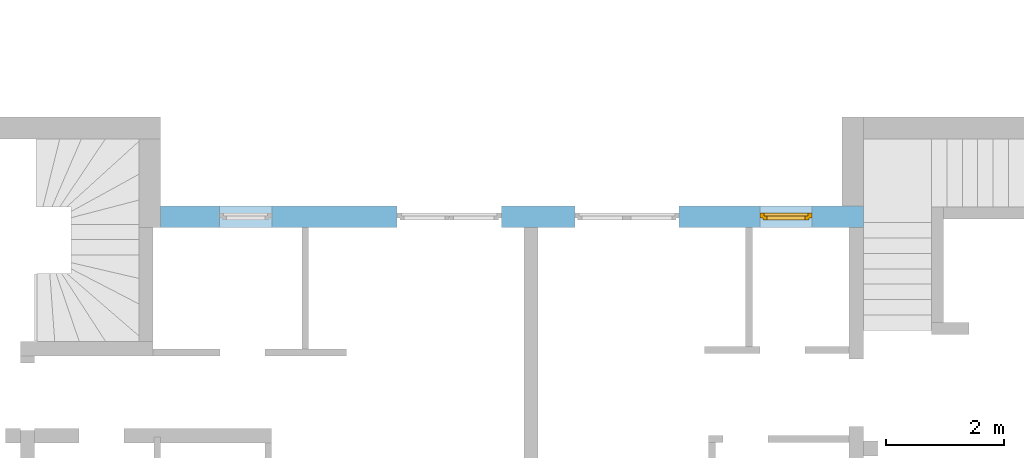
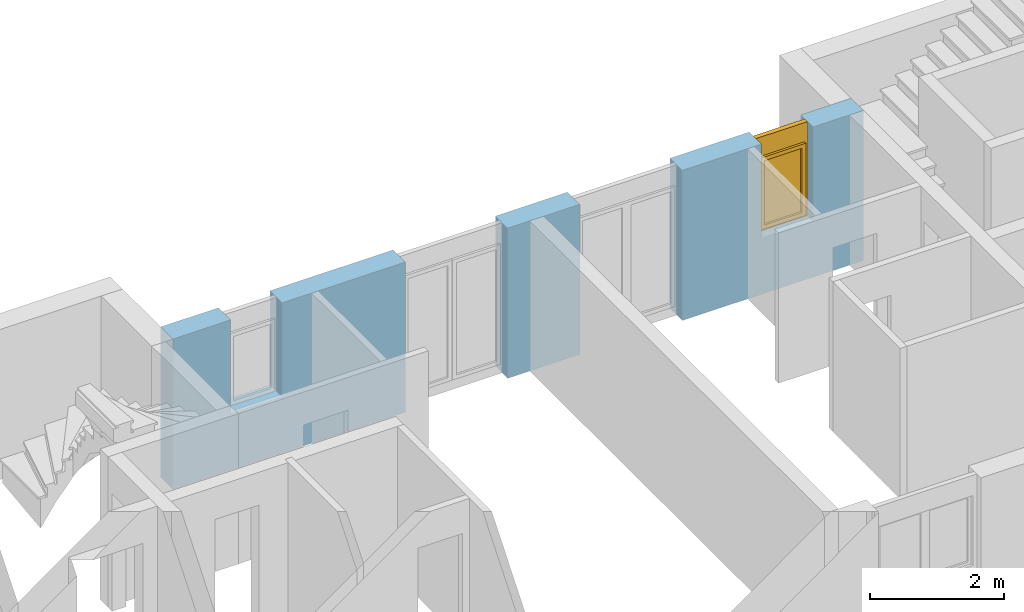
# One storey, part 35 of 41: 1 window, 4 openings, plus 1 element that does not belong to this part.
"""IFC2X3 building model written with IfcOpenShell, lengths in millimetres."""

from ifc_helpers import new_model, entity, si_unit, converted_unit, frame, frame_2d, origin, origin_with_axes, place, context, subcontext, project, spatial, rectangle, extrude, faceted_brep, material, layer, layer_set, layer_usage, type_object, element, fill, save


model = new_model("IFC2X3")

# Units and contexts
model_context = context("Model", 3, precision=1e-05, world=origin())
body_context = subcontext(model_context, "Body", "Model", "MODEL_VIEW")
ifc_project = project(units=[si_unit("LENGTHUNIT", "METRE", prefix="MILLI"), converted_unit("PLANEANGLEUNIT", "DEGREE", entity("IfcPlaneAngleMeasure", 0.0174532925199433), si_unit("PLANEANGLEUNIT", "RADIAN"), dimensions=[0, 0, 0, 0, 0, 0, 0]), si_unit("AREAUNIT", "SQUARE_METRE"), si_unit("VOLUMEUNIT", "CUBIC_METRE")], contexts=[model_context])

# Building, storey
building_placement = place(None, origin())
building = spatial("IfcBuilding", under=ifc_project, at=building_placement, Name="Gebäude", CompositionType="ELEMENT")
storey_placement = place(building_placement, frame((0.0, 0.0, -200.0), z_axis=(0.0, 0.0, 1.0), x_axis=(1.0, 0.0, 0.0)))
storey = spatial("IfcBuildingStorey", under=building, at=storey_placement, Name="EG.- Grundriss", CompositionType="ELEMENT", Elevation=-200.0)

# Wall, openings, window
ifc_material_1 = material(Name="Poroton")
ifc_layer = layer(ifc_material_1, 365.0000000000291)
ifc_layer_set = layer_set([ifc_layer])
ifc_layer_usage = layer_usage(ifc_layer_set, "AXIS2", "POSITIVE", 0.0)
wall_placement = place(storey_placement, frame((176237.7928067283, 134774.8877324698, 0.0), z_axis=(0.0, 0.0, 1.0), x_axis=(-1.0, 0.0, 0.0)))
wall = element("IfcWallStandardCase", 1, at=wall_placement, inside=storey, material=ifc_layer_usage, Name="<Unnamed Element>", context=body_context, shape_type="SweptSolid", body=[
    extrude(rectangle(XDim=11869.99999999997, YDim=365.0000000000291, at=frame_2d((5934.999999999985, 182.5000000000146), x_axis=(1.0, 0.0))), origin_with_axes(), (0.0, 0.0, 1.0), 2730.0),
])
opening_1_placement = place(wall_placement, frame((9990.00000000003, 0.0, 1020.0), z_axis=(0.0, 1.0, 0.0), x_axis=(0.0, 0.0, 1.0)))
element("IfcOpeningElement", 2, at=opening_1_placement, cuts=wall, Name="Fensteröffnung", ObjectType="Opening", context=body_context, shape_type="SweptSolid", body=[
    extrude(rectangle(XDim=1710.0, YDim=885.0, at=frame_2d((855.0, 442.5), x_axis=(1.0, 0.0))), origin_with_axes(), (0.0, 0.0, 1.0), 365.0000000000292),
])
opening_2_placement = place(wall_placement, frame((6115.000000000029, 0.0, 0.0), z_axis=(0.0, 1.0, 0.0), x_axis=(0.0, 0.0, 1.0)))
element("IfcOpeningElement", 3, at=opening_2_placement, cuts=wall, Name="Fensteröffnung", ObjectType="Opening", context=body_context, shape_type="SweptSolid", body=[
    extrude(rectangle(XDim=2730.0, YDim=1760.0, at=frame_2d((1365.0, 880.0), x_axis=(1.0, 0.0))), origin_with_axes(), (0.0, 0.0, 1.0), 365.0000000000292),
])
opening_3_placement = place(wall_placement, frame((3115.000000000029, 0.0, 0.0), z_axis=(0.0, 1.0, 0.0), x_axis=(0.0, 0.0, 1.0)))
element("IfcOpeningElement", 4, at=opening_3_placement, cuts=wall, Name="Fensteröffnung", ObjectType="Opening", context=body_context, shape_type="SweptSolid", body=[
    extrude(rectangle(XDim=2730.0, YDim=1760.0, at=frame_2d((1365.0, 880.0), x_axis=(1.0, 0.0))), origin_with_axes(), (0.0, 0.0, 1.0), 365.0000000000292),
])
opening_4_placement = place(wall_placement, frame((865.0000000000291, 0.0, 1020.0), z_axis=(0.0, 1.0, 0.0), x_axis=(0.0, 0.0, 1.0)))
opening_4 = element("IfcOpeningElement", 5, at=opening_4_placement, cuts=wall, Name="Fensteröffnung", ObjectType="Opening", context=body_context, shape_type="SweptSolid", body=[
    extrude(rectangle(XDim=1710.0, YDim=885.0, at=frame_2d((855.0, 442.5), x_axis=(1.0, 0.0))), origin_with_axes(), (0.0, 0.0, 1.0), 365.0000000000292),
])
ifc_material_2 = material()
window_style = type_object("IfcWindowStyle", Name="Fenster", ConstructionType="NOTDEFINED", OperationType="USERDEFINED", ParameterTakesPrecedence=False, Sizeable=False)
window_placement = place(opening_4_placement, frame((0.0, 0.0, 0.0), z_axis=(1.0, 0.0, 0.0), x_axis=(0.0, 1.0, 0.0)))
window = element("IfcWindow", 6, at=window_placement, inside=storey, type_object=window_style, material=ifc_material_2, Name="Fenster", OverallHeight=1710.0, OverallWidth=885.0, context=body_context, shape_type="Brep", body=[
    faceted_brep([(9.797174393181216e-15, 200.0000000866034, 1710.0), (9.797174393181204e-15, 200.0000000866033, -2.449293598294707e-15), (69.99999999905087, 200.0000000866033, -2.449293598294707e-15), (69.99999999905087, 200.0000000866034, 1710.0), (0.0, 120.0000000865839, 2.449293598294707e-15), (1.21822944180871e-29, 120.000000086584, 1710.0), (69.99999999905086, 120.000000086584, 1710.0), (69.99999999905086, 120.0000000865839, 2.449293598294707e-15), (9.797174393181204e-15, 200.0000000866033, -2.449293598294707e-15), (9.797174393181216e-15, 200.0000000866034, 1710.0), (1.21822944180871e-29, 120.000000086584, 1710.0), (0.0, 120.0000000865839, 2.449293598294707e-15), (69.99999999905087, 200.0000000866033, -2.449293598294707e-15), (9.797174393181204e-15, 200.0000000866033, -2.449293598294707e-15), (0.0, 120.0000000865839, 2.449293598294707e-15), (69.99999999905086, 120.0000000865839, 2.449293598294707e-15), (69.99999999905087, 200.0000000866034, 1710.0), (69.99999999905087, 200.0000000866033, -2.449293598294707e-15), (69.99999999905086, 120.0000000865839, 2.449293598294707e-15), (69.99999999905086, 120.000000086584, 1710.0), (9.797174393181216e-15, 200.0000000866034, 1710.0), (69.99999999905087, 200.0000000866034, 1710.0), (69.99999999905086, 120.000000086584, 1710.0), (1.21822944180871e-29, 120.000000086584, 1710.0)], [[[0, 1, 2, 3]], [[4, 5, 6, 7]], [[8, 9, 10, 11]], [[12, 13, 14, 15]], [[16, 17, 18, 19]], [[20, 21, 22, 23]]], orient=[[False], [False], [False], [False], [False], [False]]),
    faceted_brep([(815.0000000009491, 200.0000000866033, 1710.0), (815.0000000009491, 200.0000000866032, -2.449293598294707e-15), (884.9999999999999, 200.0000000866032, -2.449293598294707e-15), (884.9999999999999, 200.0000000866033, 1710.0), (815.0000000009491, 120.0000000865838, 2.449293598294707e-15), (815.0000000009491, 120.0000000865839, 1710.0), (884.9999999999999, 120.0000000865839, 1710.0), (884.9999999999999, 120.0000000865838, 2.449293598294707e-15), (815.0000000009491, 200.0000000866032, -2.449293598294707e-15), (815.0000000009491, 200.0000000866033, 1710.0), (815.0000000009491, 120.0000000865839, 1710.0), (815.0000000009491, 120.0000000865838, 2.449293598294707e-15), (884.9999999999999, 200.0000000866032, -2.449293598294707e-15), (815.0000000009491, 200.0000000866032, -2.449293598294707e-15), (815.0000000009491, 120.0000000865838, 2.449293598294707e-15), (884.9999999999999, 120.0000000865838, 2.449293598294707e-15), (884.9999999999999, 200.0000000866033, 1710.0), (884.9999999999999, 200.0000000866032, -2.449293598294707e-15), (884.9999999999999, 120.0000000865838, 2.449293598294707e-15), (884.9999999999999, 120.0000000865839, 1710.0), (815.0000000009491, 200.0000000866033, 1710.0), (884.9999999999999, 200.0000000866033, 1710.0), (884.9999999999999, 120.0000000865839, 1710.0), (815.0000000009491, 120.0000000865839, 1710.0)], [[[0, 1, 2, 3]], [[4, 5, 6, 7]], [[8, 9, 10, 11]], [[12, 13, 14, 15]], [[16, 17, 18, 19]], [[20, 21, 22, 23]]], orient=[[False], [False], [False], [False], [False], [False]]),
    faceted_brep([(69.99999999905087, 200.0000000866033, 70.0), (69.99999999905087, 200.0000000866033, -2.449293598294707e-15), (815.0000000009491, 200.0000000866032, -2.449293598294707e-15), (815.0000000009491, 200.0000000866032, 70.0), (69.99999999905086, 120.0000000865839, 2.449293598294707e-15), (69.99999999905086, 120.0000000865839, 70.0), (815.0000000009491, 120.0000000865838, 70.0), (815.0000000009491, 120.0000000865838, 2.449293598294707e-15), (69.99999999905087, 200.0000000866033, -2.449293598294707e-15), (69.99999999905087, 200.0000000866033, 70.0), (69.99999999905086, 120.0000000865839, 70.0), (69.99999999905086, 120.0000000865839, 2.449293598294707e-15), (815.0000000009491, 200.0000000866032, -2.449293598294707e-15), (69.99999999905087, 200.0000000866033, -2.449293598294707e-15), (69.99999999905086, 120.0000000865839, 2.449293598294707e-15), (815.0000000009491, 120.0000000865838, 2.449293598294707e-15), (815.0000000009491, 200.0000000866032, 70.0), (815.0000000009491, 200.0000000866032, -2.449293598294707e-15), (815.0000000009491, 120.0000000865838, 2.449293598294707e-15), (815.0000000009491, 120.0000000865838, 70.0), (69.99999999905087, 200.0000000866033, 70.0), (815.0000000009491, 200.0000000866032, 70.0), (815.0000000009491, 120.0000000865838, 70.0), (69.99999999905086, 120.0000000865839, 70.0)], [[[0, 1, 2, 3]], [[4, 5, 6, 7]], [[8, 9, 10, 11]], [[12, 13, 14, 15]], [[16, 17, 18, 19]], [[20, 21, 22, 23]]], orient=[[False], [False], [False], [False], [False], [False]]),
    faceted_brep([(69.99999999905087, 200.0000000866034, 1710.0), (69.99999999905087, 200.0000000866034, 1340.0), (815.0000000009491, 200.0000000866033, 1340.0), (815.0000000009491, 200.0000000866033, 1710.0), (69.99999999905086, 120.000000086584, 1340.0), (69.99999999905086, 120.000000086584, 1710.0), (815.0000000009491, 120.0000000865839, 1710.0), (815.0000000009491, 120.0000000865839, 1340.0), (69.99999999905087, 200.0000000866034, 1340.0), (69.99999999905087, 200.0000000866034, 1710.0), (69.99999999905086, 120.000000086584, 1710.0), (69.99999999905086, 120.000000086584, 1340.0), (815.0000000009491, 200.0000000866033, 1340.0), (69.99999999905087, 200.0000000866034, 1340.0), (69.99999999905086, 120.000000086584, 1340.0), (815.0000000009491, 120.0000000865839, 1340.0), (815.0000000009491, 200.0000000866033, 1710.0), (815.0000000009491, 200.0000000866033, 1340.0), (815.0000000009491, 120.0000000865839, 1340.0), (815.0000000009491, 120.0000000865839, 1710.0), (69.99999999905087, 200.0000000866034, 1710.0), (815.0000000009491, 200.0000000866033, 1710.0), (815.0000000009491, 120.0000000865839, 1710.0), (69.99999999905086, 120.000000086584, 1710.0)], [[[0, 1, 2, 3]], [[4, 5, 6, 7]], [[8, 9, 10, 11]], [[12, 13, 14, 15]], [[16, 17, 18, 19]], [[20, 21, 22, 23]]], orient=[[False], [False], [False], [False], [False], [False]]),
    faceted_brep([(49.99999999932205, 240.0000000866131, 1360.0), (49.99999999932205, 240.000000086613, 50.0), (119.9999999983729, 240.000000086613, 50.0), (119.9999999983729, 240.0000000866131, 1360.0), (49.99999999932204, 170.000000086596, 50.00000000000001), (49.99999999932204, 170.0000000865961, 1360.0), (119.9999999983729, 170.0000000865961, 1360.0), (119.9999999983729, 170.000000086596, 50.00000000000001), (49.99999999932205, 240.000000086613, 50.0), (49.99999999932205, 240.0000000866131, 1360.0), (49.99999999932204, 170.0000000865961, 1360.0), (49.99999999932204, 170.000000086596, 50.00000000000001), (119.9999999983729, 240.000000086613, 50.0), (49.99999999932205, 240.000000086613, 50.0), (49.99999999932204, 170.000000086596, 50.00000000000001), (119.9999999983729, 170.000000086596, 50.00000000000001), (119.9999999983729, 240.0000000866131, 1360.0), (119.9999999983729, 240.000000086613, 50.0), (119.9999999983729, 170.000000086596, 50.00000000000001), (119.9999999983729, 170.0000000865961, 1360.0), (49.99999999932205, 240.0000000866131, 1360.0), (119.9999999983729, 240.0000000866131, 1360.0), (119.9999999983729, 170.0000000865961, 1360.0), (49.99999999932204, 170.0000000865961, 1360.0)], [[[0, 1, 2, 3]], [[4, 5, 6, 7]], [[8, 9, 10, 11]], [[12, 13, 14, 15]], [[16, 17, 18, 19]], [[20, 21, 22, 23]]], orient=[[False], [False], [False], [False], [False], [False]]),
    faceted_brep([(765.000000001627, 240.000000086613, 1360.0), (765.000000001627, 240.0000000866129, 50.0), (835.0000000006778, 240.0000000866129, 50.0), (835.0000000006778, 240.000000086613, 1360.0), (765.000000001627, 170.000000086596, 50.00000000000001), (765.000000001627, 170.000000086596, 1360.0), (835.0000000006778, 170.000000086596, 1360.0), (835.0000000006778, 170.000000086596, 50.00000000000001), (765.000000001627, 240.0000000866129, 50.0), (765.000000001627, 240.000000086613, 1360.0), (765.000000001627, 170.000000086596, 1360.0), (765.000000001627, 170.000000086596, 50.00000000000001), (835.0000000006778, 240.0000000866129, 50.0), (765.000000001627, 240.0000000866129, 50.0), (765.000000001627, 170.000000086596, 50.00000000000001), (835.0000000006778, 170.000000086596, 50.00000000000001), (835.0000000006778, 240.000000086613, 1360.0), (835.0000000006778, 240.0000000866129, 50.0), (835.0000000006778, 170.000000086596, 50.00000000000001), (835.0000000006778, 170.000000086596, 1360.0), (765.000000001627, 240.000000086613, 1360.0), (835.0000000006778, 240.000000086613, 1360.0), (835.0000000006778, 170.000000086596, 1360.0), (765.000000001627, 170.000000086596, 1360.0)], [[[0, 1, 2, 3]], [[4, 5, 6, 7]], [[8, 9, 10, 11]], [[12, 13, 14, 15]], [[16, 17, 18, 19]], [[20, 21, 22, 23]]], orient=[[False], [False], [False], [False], [False], [False]]),
    faceted_brep([(119.9999999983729, 240.000000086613, 120.0), (119.9999999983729, 240.000000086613, 50.0), (765.000000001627, 240.0000000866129, 50.0), (765.000000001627, 240.0000000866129, 120.0), (119.9999999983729, 170.000000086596, 50.00000000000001), (119.9999999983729, 170.000000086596, 120.0), (765.000000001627, 170.000000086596, 120.0), (765.000000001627, 170.000000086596, 50.00000000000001), (119.9999999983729, 240.000000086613, 50.0), (119.9999999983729, 240.000000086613, 120.0), (119.9999999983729, 170.000000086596, 120.0), (119.9999999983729, 170.000000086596, 50.00000000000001), (765.000000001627, 240.0000000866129, 50.0), (119.9999999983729, 240.000000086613, 50.0), (119.9999999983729, 170.000000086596, 50.00000000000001), (765.000000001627, 170.000000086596, 50.00000000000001), (765.000000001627, 240.0000000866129, 120.0), (765.000000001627, 240.0000000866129, 50.0), (765.000000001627, 170.000000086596, 50.00000000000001), (765.000000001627, 170.000000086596, 120.0), (119.9999999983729, 240.000000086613, 120.0), (765.000000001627, 240.0000000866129, 120.0), (765.000000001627, 170.000000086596, 120.0), (119.9999999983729, 170.000000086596, 120.0)], [[[0, 1, 2, 3]], [[4, 5, 6, 7]], [[8, 9, 10, 11]], [[12, 13, 14, 15]], [[16, 17, 18, 19]], [[20, 21, 22, 23]]], orient=[[False], [False], [False], [False], [False], [False]]),
    faceted_brep([(119.9999999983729, 240.0000000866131, 1360.0), (119.9999999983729, 240.0000000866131, 1290.0), (765.000000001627, 240.000000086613, 1290.0), (765.000000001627, 240.000000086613, 1360.0), (119.9999999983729, 170.0000000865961, 1290.0), (119.9999999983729, 170.0000000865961, 1360.0), (765.000000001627, 170.000000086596, 1360.0), (765.000000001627, 170.000000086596, 1290.0), (119.9999999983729, 240.0000000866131, 1290.0), (119.9999999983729, 240.0000000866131, 1360.0), (119.9999999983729, 170.0000000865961, 1360.0), (119.9999999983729, 170.0000000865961, 1290.0), (765.000000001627, 240.000000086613, 1290.0), (119.9999999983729, 240.0000000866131, 1290.0), (119.9999999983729, 170.0000000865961, 1290.0), (765.000000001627, 170.000000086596, 1290.0), (765.000000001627, 240.000000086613, 1360.0), (765.000000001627, 240.000000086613, 1290.0), (765.000000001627, 170.000000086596, 1290.0), (765.000000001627, 170.000000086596, 1360.0), (119.9999999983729, 240.0000000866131, 1360.0), (765.000000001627, 240.000000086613, 1360.0), (765.000000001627, 170.000000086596, 1360.0), (119.9999999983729, 170.0000000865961, 1360.0)], [[[0, 1, 2, 3]], [[4, 5, 6, 7]], [[8, 9, 10, 11]], [[12, 13, 14, 15]], [[16, 17, 18, 19]], [[20, 21, 22, 23]]], orient=[[False], [False], [False], [False], [False], [False]]),
    faceted_brep([(119.9999999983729, 205.0000000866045, 120.0), (765.000000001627, 205.0000000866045, 120.0), (765.000000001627, 205.0000000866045, 1290.0), (119.9999999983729, 205.0000000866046, 1290.0), (119.9999999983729, 204.0000000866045, 120.0), (119.9999999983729, 204.0000000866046, 1290.0), (765.000000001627, 204.0000000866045, 1290.0), (765.000000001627, 204.0000000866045, 120.0), (119.9999999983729, 205.0000000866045, 120.0), (119.9999999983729, 204.0000000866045, 120.0), (765.000000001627, 204.0000000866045, 120.0), (765.000000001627, 205.0000000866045, 120.0), (765.000000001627, 205.0000000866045, 120.0), (765.000000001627, 204.0000000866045, 120.0), (765.000000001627, 204.0000000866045, 1290.0), (765.000000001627, 205.0000000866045, 1290.0), (765.000000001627, 205.0000000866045, 1290.0), (765.000000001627, 204.0000000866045, 1290.0), (119.9999999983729, 204.0000000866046, 1290.0), (119.9999999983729, 205.0000000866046, 1290.0), (119.9999999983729, 205.0000000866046, 1290.0), (119.9999999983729, 204.0000000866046, 1290.0), (119.9999999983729, 204.0000000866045, 120.0), (119.9999999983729, 205.0000000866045, 120.0)], [[[0, 1, 2, 3]], [[4, 5, 6, 7]], [[8, 9, 10, 11]], [[12, 13, 14, 15]], [[16, 17, 18, 19]], [[20, 21, 22, 23]]], orient=[[False], [False], [False], [False], [False], [False]]),
])
fill(opening_4, window)

save(model, "model.ifc")
